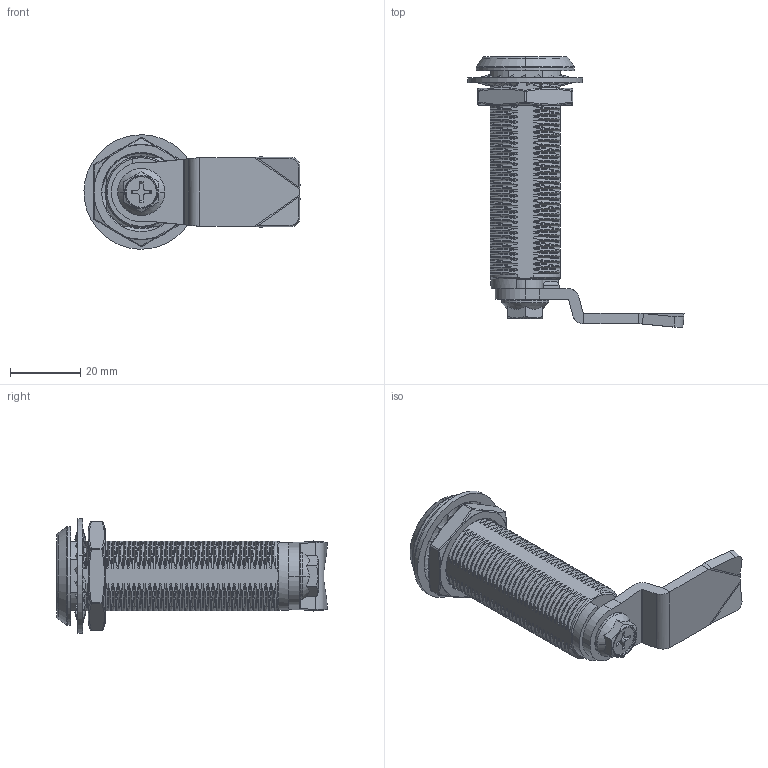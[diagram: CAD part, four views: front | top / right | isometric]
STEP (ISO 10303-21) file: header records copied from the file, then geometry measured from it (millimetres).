
FILE_DESCRIPTION (( 'STEP AP203' ), '1' );
FILE_NAME ('CUYUE D1-1406-037.STEP', '2026-06-17T01:37:54', ( '' ), ( '' ), 'SwSTEP 2.0', 'SolidWorks 2020', '' );
FILE_SCHEMA (( 'CONFIG_CONTROL_DESIGN' ));
Length unit declared in the file: millimetre
Products named in the file (7): _model1.sldasm-Part-5; _model1.sldasm-Part-6; _model1.sldasm-Part-2; CUYUE D1-1406-037; _model1.sldasm-Part-3; _model1.sldasm-Part-1; _model1.sldasm-Part-4
Assembly tree (6 placements, depth 2):
  CUYUE D1-1406-037
    _model1.sldasm-Part-1
    _model1.sldasm-Part-2
    _model1.sldasm-Part-3
    _model1.sldasm-Part-4
    _model1.sldasm-Part-5
    _model1.sldasm-Part-6
Bounding box: 61.43 x 77.01 x 32.57 mm (x, y, z)
Volume: 26691.6 mm3; surface area: 19218.3 mm2
Topology: 6 solids, 6 shells, 1056 faces, 2924 edges, 1889 vertices
Faces by surface type: bspline 565, cylinder 300, plane 139, cone 37, torus 15
Entity records: 685855 total; most frequent: CARTESIAN_POINT 664978, ORIENTED_EDGE 5848, EDGE_CURVE 2924, DIRECTION 2279, VERTEX_POINT 1889, EDGE_LOOP 1073, FACE_OUTER_BOUND 1056, ADVANCED_FACE 1056
